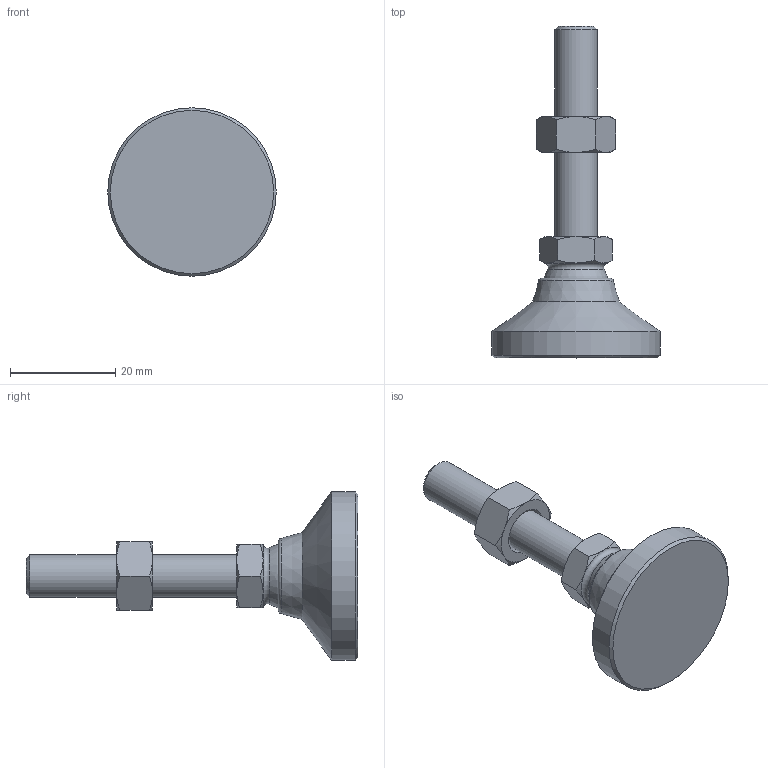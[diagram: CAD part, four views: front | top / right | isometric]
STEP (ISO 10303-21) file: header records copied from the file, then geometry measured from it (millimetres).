
FILE_DESCRIPTION( ( 'STEP AP214' ), ' ' );
FILE_NAME( 'O:/ganter_2015/teil_2/2_5/gn343_2/gn343_2_os/Levelling foot with threaded stud GN 343.2-32-M8-40-OS-(0).stp', '2015-10-26T09:06:40', ( '' ), ( '' ), ' ', 'PARTsolutions', ' ' );
FILE_SCHEMA( ( 'AUTOMOTIVE_DESIGN { 1 0 10303 214 1 1 1 1 }' ) );
Length unit declared in the file: millimetre
Products named in the file (4): Levelling foot with threaded stud GN 343.2-32-M8-40-OS-(0); _Levelling foot with threaded stud GN 343.2-32-M8-40-OS-(0)_foot; _Levelling foot with threaded stud GN 343.2-32-M8-40-OS-(0)_screw; _Stainless Steel-Levelling feet GN 343.2-32-M8-40-OS-(0)_nut
Assembly tree (3 placements, depth 2):
  Levelling foot with threaded stud GN 343.2-32-M8-40-OS-(0)
    _Levelling foot with threaded stud GN 343.2-32-M8-40-OS-(0)_foot
    _Levelling foot with threaded stud GN 343.2-32-M8-40-OS-(0)_screw
    _Stainless Steel-Levelling feet GN 343.2-32-M8-40-OS-(0)_nut
Bounding box: 32 x 63 x 32 mm (x, y, z)
Volume: 11151.4 mm3; surface area: 4958.9 mm2
Topology: 3 solids, 3 shells, 55 faces, 116 edges, 67 vertices
Faces by surface type: cone 30, plane 18, cylinder 3, torus 2, sphere 2
Full cylindrical faces by diameter (mm): 6.647 x1, 8 x1, 32 x1
Entity records: 2022 total; most frequent: CARTESIAN_POINT 479, DIRECTION 208, ORIENTED_EDGE 198, EDGE_CURVE 99, AXIS2_PLACEMENT_3D 98, EDGE_LOOP 70, VERTEX_POINT 65, FACE_OUTER_BOUND 60
